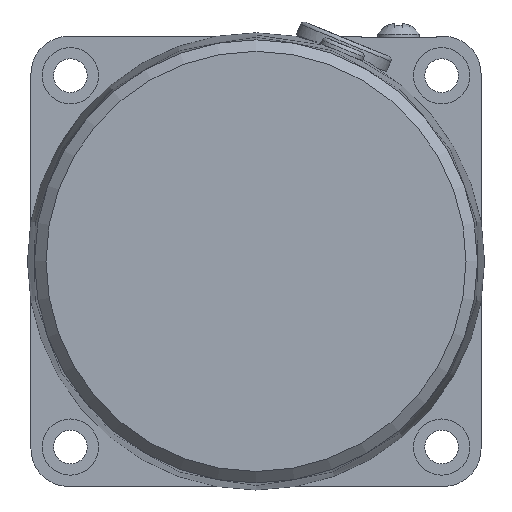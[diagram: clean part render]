
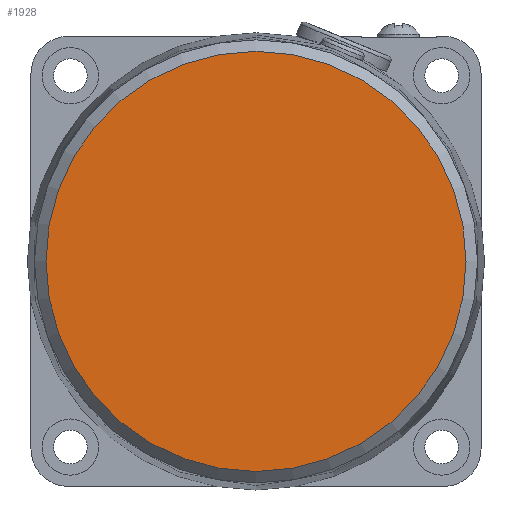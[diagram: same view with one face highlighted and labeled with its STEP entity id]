
A CAD part, left-side view. The second image highlights one B-rep face of the part: STEP entity #1928.
In plain terms, the highlighted planar face has unit normal (-1, 0, 0).
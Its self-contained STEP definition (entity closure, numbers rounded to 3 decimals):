
#297=PLANE('',#2058);
#452=FACE_OUTER_BOUND('',#579,.T.);
#579=EDGE_LOOP('',(#1285));
#732=CIRCLE('',#2059,28.);
#830=VERTEX_POINT('',#2985);
#1014=EDGE_CURVE('',#830,#830,#732,.T.);
#1285=ORIENTED_EDGE('',*,*,#1014,.F.);
#1928=ADVANCED_FACE('',(#452),#297,.F.);
#2058=AXIS2_PLACEMENT_3D('',#2984,#2289,#2290);
#2059=AXIS2_PLACEMENT_3D('',#2986,#2291,#2292);
#2289=DIRECTION('center_axis',(1.,0.,0.));
#2290=DIRECTION('ref_axis',(0.,0.,-1.));
#2291=DIRECTION('center_axis',(1.,0.,0.));
#2292=DIRECTION('ref_axis',(0.,0.,
-1.));
#2984=CARTESIAN_POINT('Origin',(-36.5,0.,0.));
#2985=CARTESIAN_POINT('',(-36.5,0.,28.));
#2986=CARTESIAN_POINT('Origin',(-36.5,0.,0.));
